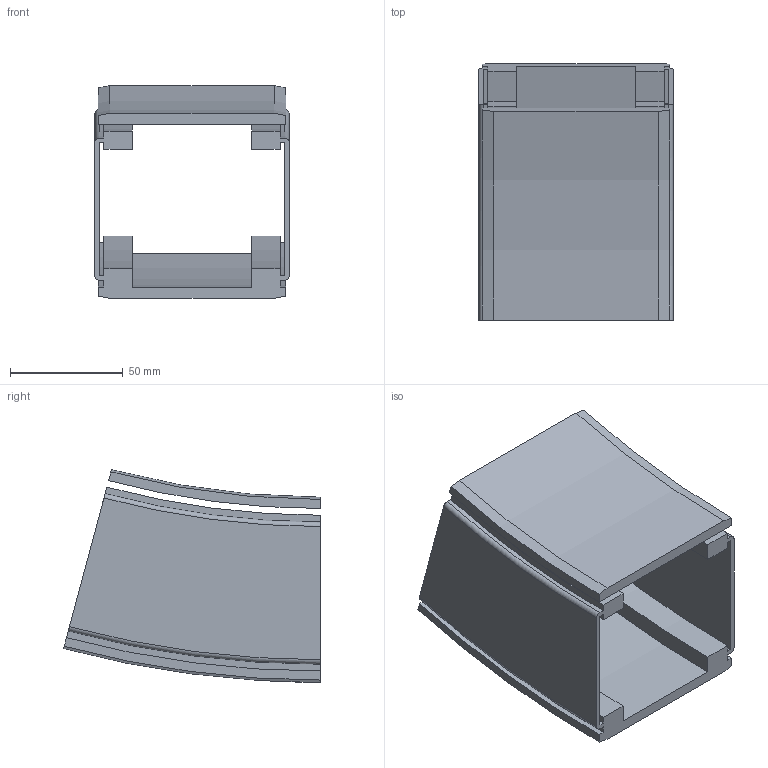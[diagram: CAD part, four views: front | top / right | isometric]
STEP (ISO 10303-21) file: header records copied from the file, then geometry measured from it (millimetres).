
FILE_DESCRIPTION(/* description */ ('VERTIKALKURVA S530 R400'),/* implementation_level */ '2;1');
FILE_NAME(/* name */ '530-5645+830-2000-NER-01.stp',/* time_stamp */ '2022-09-21T07:09:40+02:00',/* author */ ('Mathias.Dore'),/* organization */ ('CARRYLINE'),/* preprocessor_version */ 'ST-DEVELOPER v19.2',/* originating_system */ 'Autodesk Inventor 2023',/* authorisation */ '');
FILE_SCHEMA (('AUTOMOTIVE_DESIGN { 1 0 10303 214 3 1 1 }'));
Length unit declared in the file: millimetre
Products named in the file (1): 530-5645+830-2000-NER-01
Bounding box: 86 x 113.75 x 94.18 mm (x, y, z)
Volume: 155138.3 mm3; surface area: 77678.8 mm2
Topology: 2 solids, 2 shells, 87 faces, 234 edges, 156 vertices
Faces by surface type: plane 40, cylinder 25, bspline 14, cone 4, torus 4
Entity records: 7354 total; most frequent: CARTESIAN_POINT 5155, ORIENTED_EDGE 468, DIRECTION 408, EDGE_CURVE 234, VERTEX_POINT 156, AXIS2_PLACEMENT_3D 141, LINE 126, VECTOR 126
